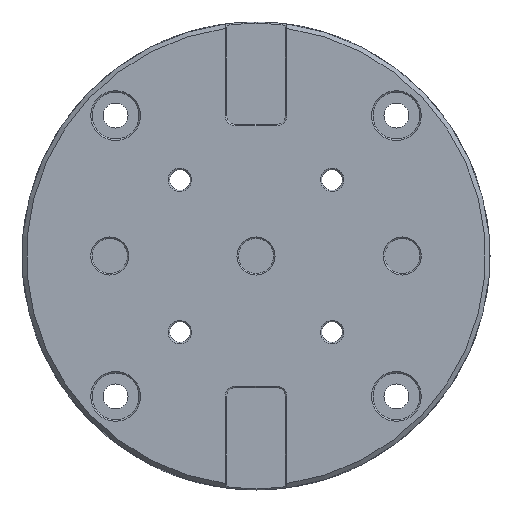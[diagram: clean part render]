
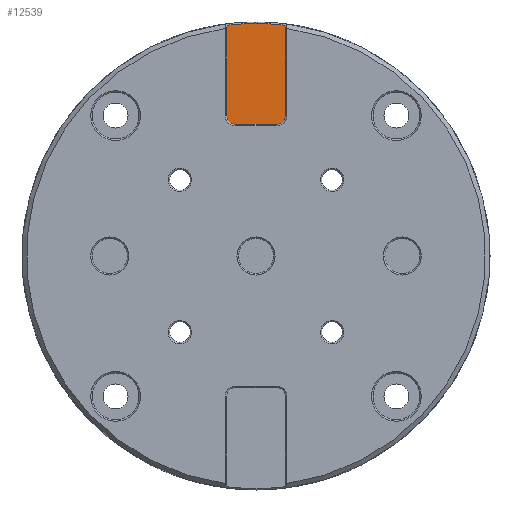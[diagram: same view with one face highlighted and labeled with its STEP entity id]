
A CAD part, front view. The second image highlights one B-rep face of the part: STEP entity #12539.
In plain terms, the highlighted planar face has unit normal (0, -1, 0).
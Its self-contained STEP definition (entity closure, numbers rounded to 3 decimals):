
#2838=CARTESIAN_POINT('',(7.,3.,48.));
#2839=DIRECTION('',(0.,-1.,0.));
#2840=DIRECTION('',(0.,0.,-1.));
#2841=AXIS2_PLACEMENT_3D('',#2838,#2839,#2840);
#2843=CARTESIAN_POINT('',(-7.,3.,48.));
#2844=DIRECTION('',(0.,-1.,0.));
#2845=DIRECTION('',(-1.,0.,0.));
#2846=AXIS2_PLACEMENT_3D('',#2843,#2844,#2845);
#2848=CARTESIAN_POINT('',(0.,3.,0.));
#2849=DIRECTION('',(0.,-1.,0.));
#2850=DIRECTION('',(0.,0.,1.));
#2851=AXIS2_PLACEMENT_3D('',#2848,#2849,#2850);
#2853=CARTESIAN_POINT('',(0.,3.,0.));
#2854=DIRECTION('',(0.,-1.,0.));
#2855=DIRECTION('',(0.126,0.,0.992));
#2856=AXIS2_PLACEMENT_3D('',#2853,#2854,#2855);
#2862=DIRECTION('',(0.,0.,-1.));
#2863=VECTOR('',#2862,30.871);
#2864=CARTESIAN_POINT('',(9.999,3.001,78.871));
#2865=LINE('',#2864,#2863);
#3264=DIRECTION('',(-1.,0.,0.));
#3265=VECTOR('',#3264,14.);
#3266=CARTESIAN_POINT('',(7.,3.,45.));
#3267=LINE('',#3266,#3265);
#3280=DIRECTION('',(0.,0.,1.));
#3281=VECTOR('',#3280,30.871);
#3282=CARTESIAN_POINT('',(-10.,3.,48.));
#3283=LINE('',#3282,#3281);
#10018=CARTESIAN_POINT('',(-10.,3.,48.));
#10020=VERTEX_POINT('',#10018);
#10233=CARTESIAN_POINT('',(7.,3.,45.));
#10235=VERTEX_POINT('',#10233);
#10427=CARTESIAN_POINT('',(0.,3.,79.5));
#10428=CARTESIAN_POINT('',(-10.,3.,78.869));
#10429=VERTEX_POINT('',#10427);
#10430=VERTEX_POINT('',#10428);
#10450=CARTESIAN_POINT('',(9.999,3.001,78.871));
#10451=CARTESIAN_POINT('',(10.,3.,48.));
#10452=VERTEX_POINT('',#10450);
#10453=VERTEX_POINT('',#10451);
#11038=CARTESIAN_POINT('',(-7.,3.,45.));
#11039=VERTEX_POINT('',#11038);
#12519=CARTESIAN_POINT('',(0.,3.,0.));
#12520=DIRECTION('',(0.,-1.,0.));
#12521=DIRECTION('',(0.,0.,-1.));
#12522=AXIS2_PLACEMENT_3D('',#12519,#12520,#12521);
#12523=PLANE('',#12522);
#12525=ORIENTED_EDGE('',*,*,#12524,.T.);
#12527=ORIENTED_EDGE('',*,*,#12526,.F.);
#12529=ORIENTED_EDGE('',*,*,#12528,.T.);
#12531=ORIENTED_EDGE('',*,*,#12530,.F.);
#12533=ORIENTED_EDGE('',*,*,#12532,.T.);
#12534=ORIENTED_EDGE('',*,*,#12508,.F.);
#12536=ORIENTED_EDGE('',*,*,#12535,.F.);
#12537=EDGE_LOOP('',(#12525,#12527,#12529,#12531,#12533,#12534,#12536));
#12538=FACE_OUTER_BOUND('',#12537,.F.);
#12539=ADVANCED_FACE('',(#12538),#12523,.T.);
#2842=CIRCLE('',#2841,3.);
#2847=CIRCLE('',#2846,3.);
#2852=CIRCLE('',#2851,79.5);
#2857=CIRCLE('',#2856,79.5);
#12508=EDGE_CURVE('',#10429,#10430,#2852,.T.);
#12524=EDGE_CURVE('',#10452,#10453,#2865,.T.);
#12526=EDGE_CURVE('',#10235,#10453,#2842,.T.);
#12528=EDGE_CURVE('',#10235,#11039,#3267,.T.);
#12530=EDGE_CURVE('',#10020,#11039,#2847,.T.);
#12532=EDGE_CURVE('',#10020,#10430,#3283,.T.);
#12535=EDGE_CURVE('',#10452,#10429,#2857,.T.);
